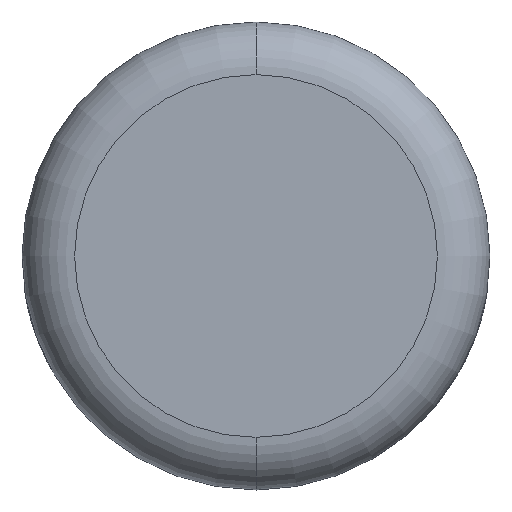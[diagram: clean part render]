
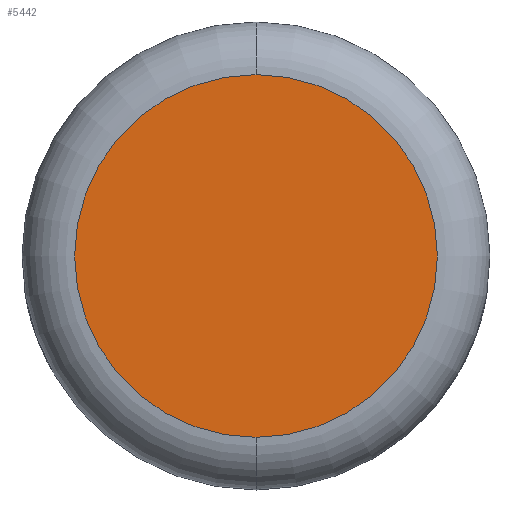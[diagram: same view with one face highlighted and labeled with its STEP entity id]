
A CAD part, front view. The second image highlights one B-rep face of the part: STEP entity #5442.
In plain terms, the highlighted planar face has unit normal (0, -1, 0).
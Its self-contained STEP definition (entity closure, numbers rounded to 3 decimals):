
#648 = EDGE_LOOP ( 'NONE', ( #1588, #3429 ) ) ;
#712 = VERTEX_POINT ( 'NONE', #5815 ) ;
#838 = CIRCLE ( 'NONE', #1487, 310. ) ;
#1460 = DIRECTION ( 'NONE',  ( 0., 0., -1. ) ) ;
#1487 = AXIS2_PLACEMENT_3D ( 'NONE', #5438, #4072, #1460 ) ;
#1588 = ORIENTED_EDGE ( 'NONE', *, *, #4662, .T. ) ;
#1741 = CARTESIAN_POINT ( 'NONE',  ( -310., 0., 0. ) ) ;
#1776 = PLANE ( 'NONE',  #4681 ) ;
#2380 = EDGE_CURVE ( 'NONE', #5423, #712, #4783, .T. ) ;
#2858 = CARTESIAN_POINT ( 'NONE',  ( 0., 0., 0. ) ) ;
#3429 = ORIENTED_EDGE ( 'NONE', *, *, #2380, .T. ) ;
#4072 = DIRECTION ( 'NONE',  ( 0., -1., 0. ) ) ;
#4286 = CARTESIAN_POINT ( 'NONE',  ( 0., 0., 310. ) ) ;
#4556 = DIRECTION ( 'NONE',  ( 0., -1., 0. ) ) ;
#4662 = EDGE_CURVE ( 'NONE', #712, #5423, #838, .T. ) ;
#4681 = AXIS2_PLACEMENT_3D ( 'NONE', #1741, #4923, #5814 ) ;
#4783 = CIRCLE ( 'NONE', #6273, 310. ) ;
#4923 = DIRECTION ( 'NONE',  ( 0., 1., 0. ) ) ;
#5423 = VERTEX_POINT ( 'NONE', #4286 ) ;
#5438 = CARTESIAN_POINT ( 'NONE',  ( 0., 0., 0. ) ) ;
#5442 = ADVANCED_FACE ( 'NONE', ( #6320 ), #1776, .F. ) ;
#5814 = DIRECTION ( 'NONE',  ( 0., 0., 1. ) ) ;
#5815 = CARTESIAN_POINT ( 'NONE',  ( 0., 0., -310. ) ) ;
#6273 = AXIS2_PLACEMENT_3D ( 'NONE', #2858, #4556, #6531 ) ;
#6320 = FACE_OUTER_BOUND ( 'NONE', #648, .T. ) ;
#6531 = DIRECTION ( 'NONE',  ( 0., 0., -1. ) ) ;
